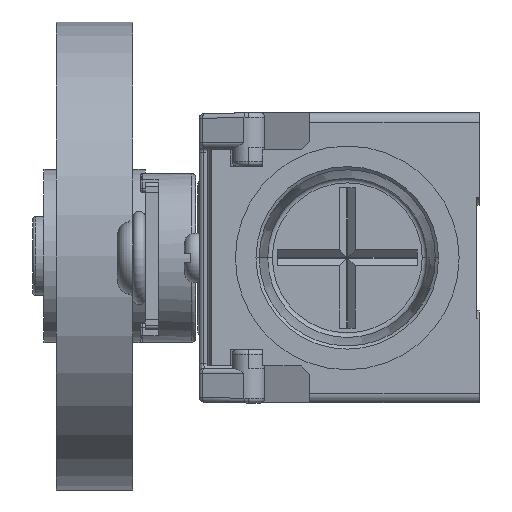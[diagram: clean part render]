
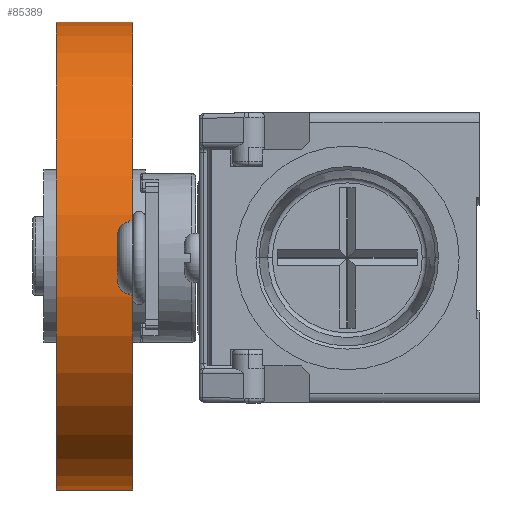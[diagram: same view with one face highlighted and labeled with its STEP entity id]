
A CAD part, left-side view. The second image highlights one B-rep face of the part: STEP entity #85389.
In plain terms, the highlighted cylindrical face has radius 25 mm (diameter 50 mm), a full revolution.
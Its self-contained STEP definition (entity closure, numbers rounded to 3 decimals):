
#84773 = EDGE_CURVE('',#84774,#84774,#84776,.T.);
#84774 = VERTEX_POINT('',#84775);
#84775 = CARTESIAN_POINT('',(144.447,21.25,0.2));
#84776 = CIRCLE('',#84777,25.);
#84777 = AXIS2_PLACEMENT_3D('',#84778,#84779,#84780);
#84778 = CARTESIAN_POINT('',(119.447,21.25,0.2));
#84779 = DIRECTION('',(-0.,1.,0.));
#84780 = DIRECTION('',(1.,0.,0.));
#85376 = EDGE_CURVE('',#85377,#85377,#85379,.T.);
#85377 = VERTEX_POINT('',#85378);
#85378 = CARTESIAN_POINT('',(144.447,29.45,0.2));
#85379 = CIRCLE('',#85380,25.);
#85380 = AXIS2_PLACEMENT_3D('',#85381,#85382,#85383);
#85381 = CARTESIAN_POINT('',(119.447,29.45,0.2));
#85382 = DIRECTION('',(0.,-1.,0.));
#85383 = DIRECTION('',(1.,0.,0.));
#85389 = ADVANCED_FACE('',(#85390),#85400,.T.);
#85390 = FACE_BOUND('',#85391,.T.);
#85391 = EDGE_LOOP('',(#85392,#85393,#85398,#85399));
#85392 = ORIENTED_EDGE('',*,*,#85376,.T.);
#85393 = ORIENTED_EDGE('',*,*,#85394,.F.);
#85394 = EDGE_CURVE('',#84774,#85377,#85395,.T.);
#85395 = B_SPLINE_CURVE_WITH_KNOTS('',1,(#85396,#85397),.UNSPECIFIED.,
  .F.,.F.,(2,2),(0.,8.2),.PIECEWISE_BEZIER_KNOTS.);
#85396 = CARTESIAN_POINT('',(144.447,21.25,0.2));
#85397 = CARTESIAN_POINT('',(144.447,29.45,0.2));
#85398 = ORIENTED_EDGE('',*,*,#84773,.T.);
#85399 = ORIENTED_EDGE('',*,*,#85394,.T.);
#85400 = CYLINDRICAL_SURFACE('',#85401,25.);
#85401 = AXIS2_PLACEMENT_3D('',#85402,#85403,#85404);
#85402 = CARTESIAN_POINT('',(119.447,21.25,0.2));
#85403 = DIRECTION('',(0.,1.,0.));
#85404 = DIRECTION('',(1.,0.,0.));
